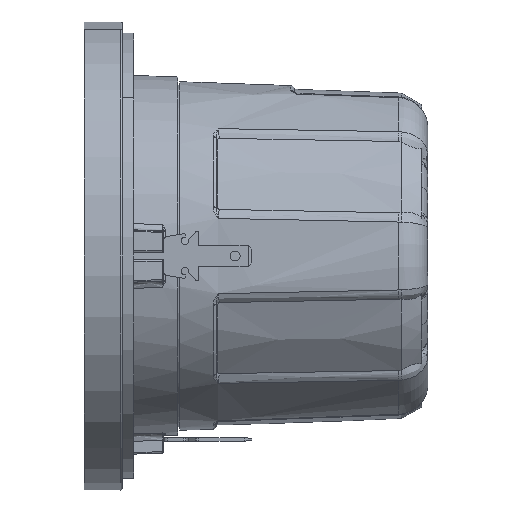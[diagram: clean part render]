
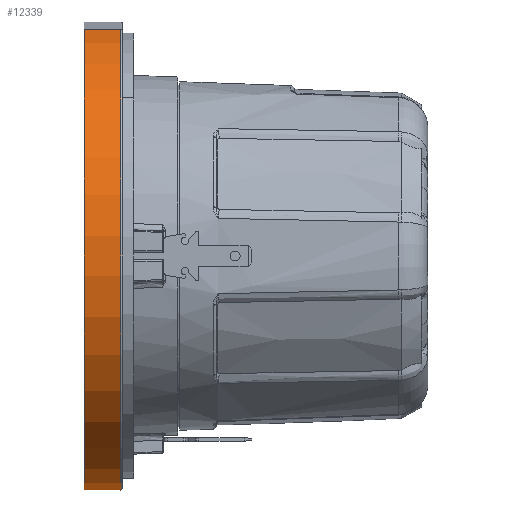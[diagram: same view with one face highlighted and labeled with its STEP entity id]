
A CAD part, left-side view. The second image highlights one B-rep face of the part: STEP entity #12339.
In plain terms, the highlighted cylindrical face has radius 31 mm (diameter 62 mm), a partial arc.
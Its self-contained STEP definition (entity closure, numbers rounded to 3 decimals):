
#168 = ORIENTED_EDGE ( 'NONE', *, *, #5738, .T. ) ;
#398 = VECTOR ( 'NONE', #3064, 1000. ) ;
#1628 = EDGE_LOOP ( 'NONE', ( #15099, #168, #12780, #15487 ) ) ;
#2274 = EDGE_CURVE ( 'NONE', #5712, #18256, #14289, .T. ) ;
#2343 = CARTESIAN_POINT ( 'NONE',  ( 0., 21.3, 0. ) ) ;
#3064 = DIRECTION ( 'NONE',  ( 0., -1., 0. ) ) ;
#3087 = CARTESIAN_POINT ( 'NONE',  ( 0., 16.5, 0. ) ) ;
#4118 = DIRECTION ( 'NONE',  ( -0.259, 0., 0.966 ) ) ;
#4830 = DIRECTION ( 'NONE',  ( -0.259, 0., 0.966 ) ) ;
#4896 = VECTOR ( 'NONE', #17465, 1000. ) ;
#5712 = VERTEX_POINT ( 'NONE', #17927 ) ;
#5738 = EDGE_CURVE ( 'NONE', #18203, #15899, #13141, .T. ) ;
#6093 = CARTESIAN_POINT ( 'NONE',  ( -8.023, 17., 29.944 ) ) ;
#6286 = CARTESIAN_POINT ( 'NONE',  ( 8.023, 16.5, -29.944 ) ) ;
#7440 = DIRECTION ( 'NONE',  ( 0., -1., 0. ) ) ;
#8956 = DIRECTION ( 'NONE',  ( -0.259, 0., 0.966 ) ) ;
#9368 = EDGE_CURVE ( 'NONE', #15899, #18256, #14661, .T. ) ;
#10230 = CYLINDRICAL_SURFACE ( 'NONE', #11298, 31. ) ;
#11298 = AXIS2_PLACEMENT_3D ( 'NONE', #18651, #14179, #4118 ) ;
#12339 = ADVANCED_FACE ( 'NONE', ( #15607 ), #10230, .T. ) ;
#12780 = ORIENTED_EDGE ( 'NONE', *, *, #9368, .T. ) ;
#12932 = AXIS2_PLACEMENT_3D ( 'NONE', #3087, #21193, #4830 ) ;
#13141 = LINE ( 'NONE', #19440, #398 ) ;
#14179 = DIRECTION ( 'NONE',  ( 0., -1., 0. ) ) ;
#14289 = LINE ( 'NONE', #6093, #4896 ) ;
#14661 = CIRCLE ( 'NONE', #12932, 31. ) ;
#15099 = ORIENTED_EDGE ( 'NONE', *, *, #20290, .T. ) ;
#15487 = ORIENTED_EDGE ( 'NONE', *, *, #2274, .F. ) ;
#15607 = FACE_OUTER_BOUND ( 'NONE', #1628, .T. ) ;
#15899 = VERTEX_POINT ( 'NONE', #6286 ) ;
#16401 = AXIS2_PLACEMENT_3D ( 'NONE', #2343, #7440, #8956 ) ;
#16442 = CARTESIAN_POINT ( 'NONE',  ( 8.023, 21.3, -29.944 ) ) ;
#17465 = DIRECTION ( 'NONE',  ( 0., -1., 0. ) ) ;
#17927 = CARTESIAN_POINT ( 'NONE',  ( -8.023, 21.3, 29.944 ) ) ;
#18203 = VERTEX_POINT ( 'NONE', #16442 ) ;
#18256 = VERTEX_POINT ( 'NONE', #20224 ) ;
#18651 = CARTESIAN_POINT ( 'NONE',  ( 0., 17., 0. ) ) ;
#19440 = CARTESIAN_POINT ( 'NONE',  ( 8.023, 17., -29.944 ) ) ;
#20212 = CIRCLE ( 'NONE', #16401, 31. ) ;
#20224 = CARTESIAN_POINT ( 'NONE',  ( -8.023, 16.5, 29.944 ) ) ;
#20290 = EDGE_CURVE ( 'NONE', #5712, #18203, #20212, .T. ) ;
#21193 = DIRECTION ( 'NONE',  ( 0., 1., 0. ) ) ;
